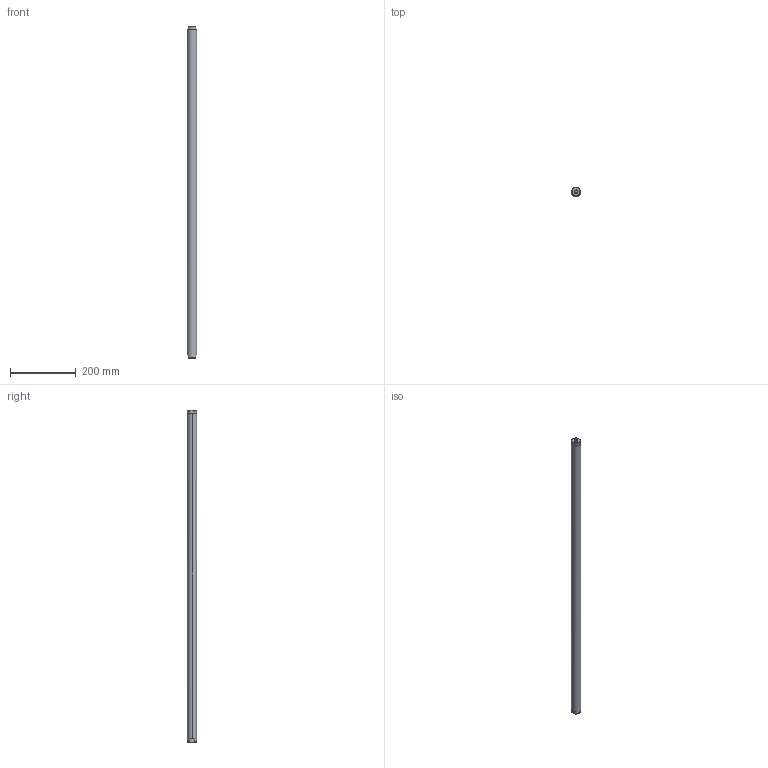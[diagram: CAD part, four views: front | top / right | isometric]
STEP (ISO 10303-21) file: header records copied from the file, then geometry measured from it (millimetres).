
FILE_DESCRIPTION (( 'STEP AP214' ), '1' );
FILE_NAME ('PL01-28x1010!930.STEP', '2004-06-16T08:13:55', ( 'Mitarbeiter' ), ( 'Firma' ), 'SwSTEP 2.0', 'SolidWorks 2001287', '' );
FILE_SCHEMA (( 'AUTOMOTIVE_DESIGN' ));
Length unit declared in the file: millimetre
Products named in the file (1): PL01-28x1010!930
Bounding box: 28 x 28 x 1010 mm (x, y, z)
Volume: 618509.9 mm3; surface area: 90801.1 mm2
Topology: 1 solids, 1 shells, 41 faces, 104 edges, 68 vertices
Faces by surface type: plane 15, cylinder 10, torus 8, cone 8
Entity records: 1353 total; most frequent: CARTESIAN_POINT 374, ORIENTED_EDGE 208, DIRECTION 192, EDGE_CURVE 104, AXIS2_PLACEMENT_3D 78, VERTEX_POINT 68, EDGE_LOOP 44, ADVANCED_FACE 41
